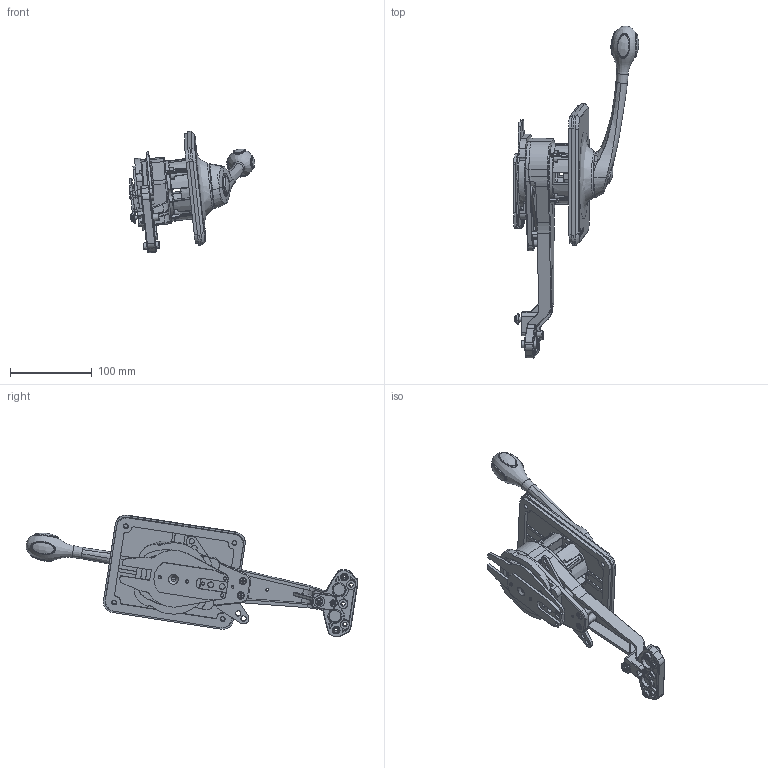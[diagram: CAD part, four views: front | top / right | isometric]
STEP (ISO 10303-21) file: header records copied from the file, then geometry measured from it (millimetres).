
FILE_DESCRIPTION(/* description */ (''),/* implementation_level */ '2;1');
FILE_NAME(/* name */ 'C:\Users\a.zappaterra\Desktop\Prodotti per Stand Virtuale\B400\B400 stand virtuale.stp',/* time_stamp */ '2021-02-04T13:36:49+01:00',/* author */ ('a.zappaterra'),/* organization */ (''),/* preprocessor_version */ 'ST-DEVELOPER v18',/* originating_system */ 'Autodesk Inventor 2020',/* authorisation */ '');
FILE_SCHEMA (('AUTOMOTIVE_DESIGN { 1 0 10303 214 3 1 1 }'));
Products named in the file (33): B400 stand virtuale; leva vuota per clienti; 27077 Complessivo leva barca a vela old; 27037; 27623 pulsante cera persa; 27044; gommino sovrastampato; 27044_1; gommino sovrastampato_1; 27042a inserto laterale; 27043; gommino sovrastampato_2; 27247; 27043_1; gommino sovrastampato_3; 27041a inserto frontale; meccanismo vuoto stand virtuale; 27296 ; 27292; 25287 ; 29569; 29740; 4264; 29570 ; 29571; ISO 7045 - M4 x 12 - 4.8 - H; ISO 7046-1 - M3 x 8 - 4.8 - H; 23445; 30211; 29783; 27047 ; 28508; 27051
Assembly tree (43 placements, depth 4):
  B400 stand virtuale
    leva vuota per clienti
      27077 Complessivo leva barca a vela old
      27037
      27623 pulsante cera persa
      27044
        gommino sovrastampato
        27042a inserto laterale
      27044_1
        gommino sovrastampato_1
        27042a inserto laterale
      27043
        gommino sovrastampato_2
        27041a inserto frontale
      27247
      27043_1
        gommino sovrastampato_3
        27041a inserto frontale
    meccanismo vuoto stand virtuale
      27296 
      27292
      25287 
      29569
      29740
      4264
      29570 
      29571
      ISO 7045 - M4 x 12 - 4.8 - H  x4
      ISO 7046-1 - M3 x 8 - 4.8 - H
      23445  x6
      30211
      29783  x2
    27047 
    28508
    27051
Bounding box: 153.38 x 406.57 x 149.13 mm (x, y, z)
Volume: 497735.8 mm3; surface area: 300080.5 mm2
Topology: 36 solids, 37 shells, 3155 faces, 8391 edges, 5309 vertices
Faces by surface type: plane 1047, cylinder 759, bspline 558, torus 358, cone 340, sphere 93
Full cylindrical faces by diameter (mm): 2.459 x6, 2.6 x2, 2.693 x1, 2.729 x6, 3 x8, 3.1 x1, 3.2 x7, 3.242 x4, 3.621 x4, 3.9 x4, 4 x11, 4.134 x5, 4.2 x4, 4.567 x1, 5 x2, 5.2 x11, 5.3 x1, 5.5 x1, 6 x13, 6.6 x4, 7 x4, 8 x5, 8.1 x1, 8.5 x5, 8.6 x2, 8.8 x2, 9 x2, 9.5 x4, 10 x6, 11 x6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
Entity records: 120452 total; most frequent: CARTESIAN_POINT 52548, ORIENTED_EDGE 14542, DIRECTION 13247, EDGE_CURVE 7271, AXIS2_PLACEMENT_3D 5284, VERTEX_POINT 4627, EDGE_LOOP 3052, FACE_OUTER_BOUND 2794
